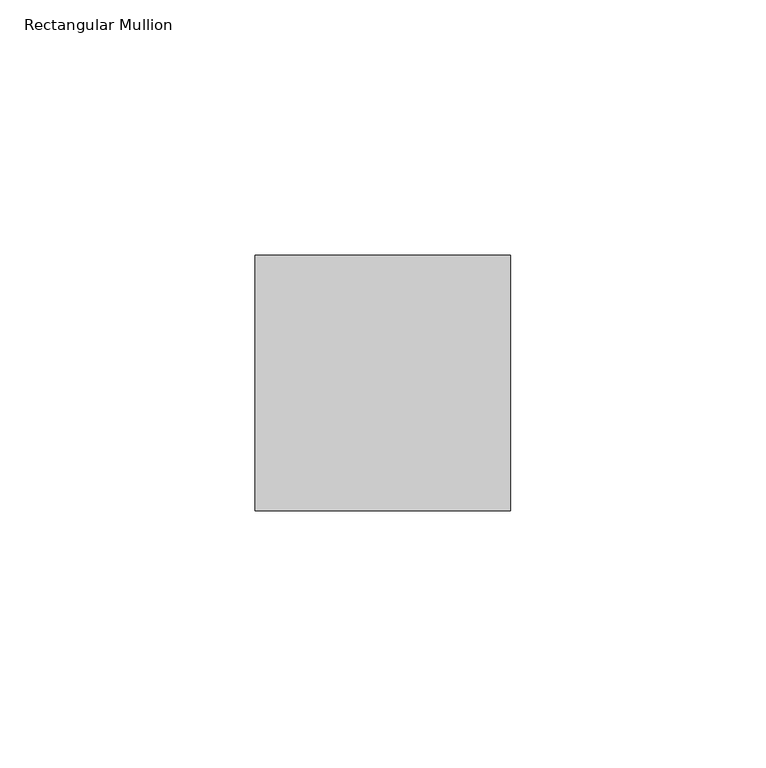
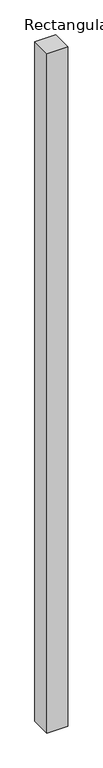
"""IFC4 building model written with IfcOpenShell, lengths in millimetres: member geometry, Rectangular Mullion : Mullion_Curtain Wall_Generic Showcase_50x50mm."""

from ifc_helpers import new_model, si_unit, frame, origin, place, context, project, spatial, polyline, outline, extrude, source, transform, mapped, element, save


def rectangular_mullion_20e4ea45(model_context):
    return source(origin(), model_context, "Body", "SweptSolid", [
        extrude(outline(polyline([(0.0, 0.0), (0.0, -50.0), (-50.0, -50.0), (-50.0, 0.0), (0.0, 0.0)])), frame((0.0, 0.0, -1725.0), z_axis=(0.0, 0.0, 1.0), x_axis=(1.0, 0.0, 0.0)), (0.0, 0.0, 1.0), 1725.0),
    ])


if __name__ == "__main__":
    model = new_model("IFC4")
    model_context = context("Model", 3, world=origin())
    ifc_project = project(units=[si_unit("LENGTHUNIT", "METRE", prefix="MILLI")], contexts=[model_context])
    site = spatial("IfcSite", under=ifc_project)
    building = spatial("IfcBuilding", under=site)
    placement = place(None, origin())
    rectangular_mullion_shape = rectangular_mullion_20e4ea45(model_context)
    element("IfcMember", 1, ObjectType="Rectangular Mullion : Mullion_Curtain Wall_Generic Showcase_50x50mm", at=placement, inside=building, context=model_context, shape_type="MappedRepresentation", body=[
        mapped(rectangular_mullion_shape, transform((0.0, 0.0, 0.0), x_axis=(1.0, 0.0, 0.0), y_axis=(0.0, 1.0, 0.0), z_axis=(0.0, 0.0, 1.0))),
    ])
    save(model, "model.ifc")
